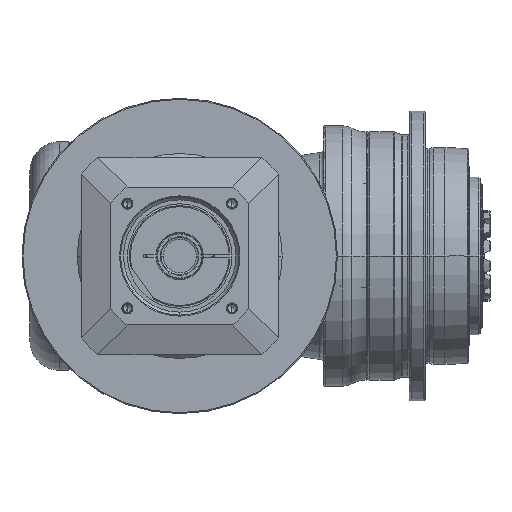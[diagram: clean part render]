
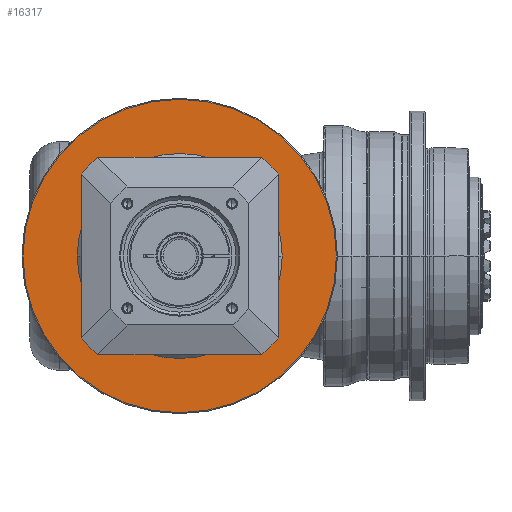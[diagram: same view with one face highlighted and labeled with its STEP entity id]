
A CAD part, front view. The second image highlights one B-rep face of the part: STEP entity #16317.
In plain terms, the highlighted planar face has unit normal (0, -1, 0) as drawn and (1, 0, 0) by its records, which use the part's own axes.
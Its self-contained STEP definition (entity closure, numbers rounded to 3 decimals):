
#15844=CARTESIAN_POINT('',(-2.,0.,
0.));
#15845=DIRECTION('',(-1.,0.,0.));
#15846=DIRECTION('',(0.,1.,0.));
#15847=AXIS2_PLACEMENT_3D('',#15844,#15845,#15846);
#15849=CARTESIAN_POINT('',(-2.,0.,
0.));
#15850=DIRECTION('',(-1.,0.,0.));
#15851=DIRECTION('',(0.,-1.,0.));
#15852=AXIS2_PLACEMENT_3D('',#15849,#15850,#15851);
#15854=CARTESIAN_POINT('',(-2.,0.,0.));
#15855=DIRECTION('',(-1.,0.,0.));
#15856=DIRECTION('',(0.,-1.,0.));
#15857=AXIS2_PLACEMENT_3D('',#15854,#15855,#15856);
#15859=CARTESIAN_POINT('',(-2.,0.,0.));
#15860=DIRECTION('',(-1.,0.,0.));
#15861=DIRECTION('',(0.,1.,0.));
#15862=AXIS2_PLACEMENT_3D('',#15859,#15860,#15861);
#15888=CARTESIAN_POINT('',(-2.,-79.5,0.));
#15889=CARTESIAN_POINT('',(-2.,79.5,0.));
#15890=VERTEX_POINT('',#15888);
#15891=VERTEX_POINT('',#15889);
#15936=CARTESIAN_POINT('',(-2.,52.,0.));
#15937=CARTESIAN_POINT('',(-2.,-52.,
0.));
#15938=VERTEX_POINT('',#15936);
#15939=VERTEX_POINT('',#15937);
#16302=CARTESIAN_POINT('',(-2.,0.,0.));
#16303=DIRECTION('',(1.,0.,0.));
#16304=DIRECTION('',(0.,-1.,0.));
#16305=AXIS2_PLACEMENT_3D('',#16302,#16303,#16304);
#16306=PLANE('',#16305);
#16307=ORIENTED_EDGE('',*,*,#16243,.T.);
#16308=ORIENTED_EDGE('',*,*,#16258,.T.);
#16309=EDGE_LOOP('',(#16307,#16308));
#16310=FACE_OUTER_BOUND('',#16309,.F.);
#16312=ORIENTED_EDGE('',*,*,#16311,.F.);
#16314=ORIENTED_EDGE('',*,*,#16313,.F.);
#16315=EDGE_LOOP('',(#16312,#16314));
#16316=FACE_BOUND('',#16315,.F.);
#16317=ADVANCED_FACE('',(#16310,#16316),#16306,.T.);
#15848=CIRCLE('',#15847,52.);
#15853=CIRCLE('',#15852,52.);
#15858=CIRCLE('',#15857,79.5);
#15863=CIRCLE('',#15862,79.5);
#16243=EDGE_CURVE('',#15890,#15891,#15858,.T.);
#16258=EDGE_CURVE('',#15891,#15890,#15863,.T.);
#16311=EDGE_CURVE('',#15938,#15939,#15848,.T.);
#16313=EDGE_CURVE('',#15939,#15938,#15853,.T.);
